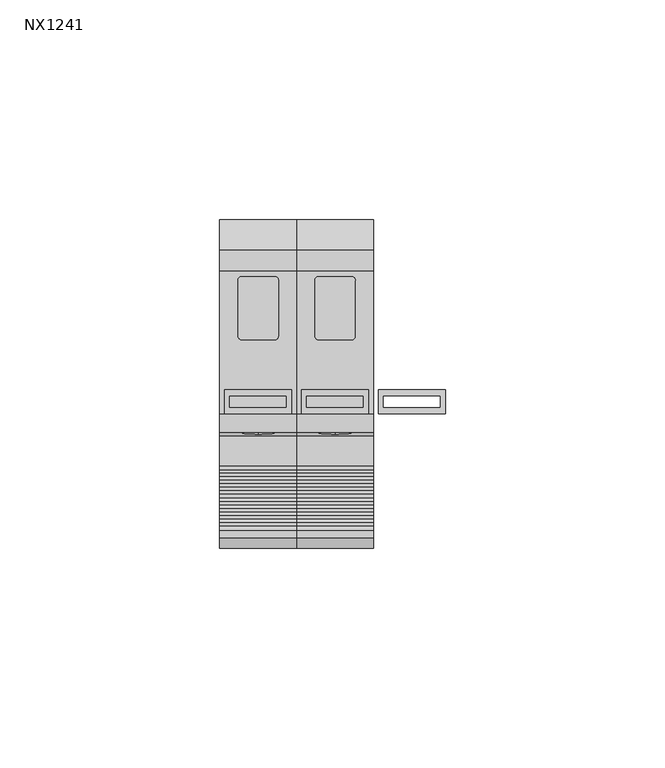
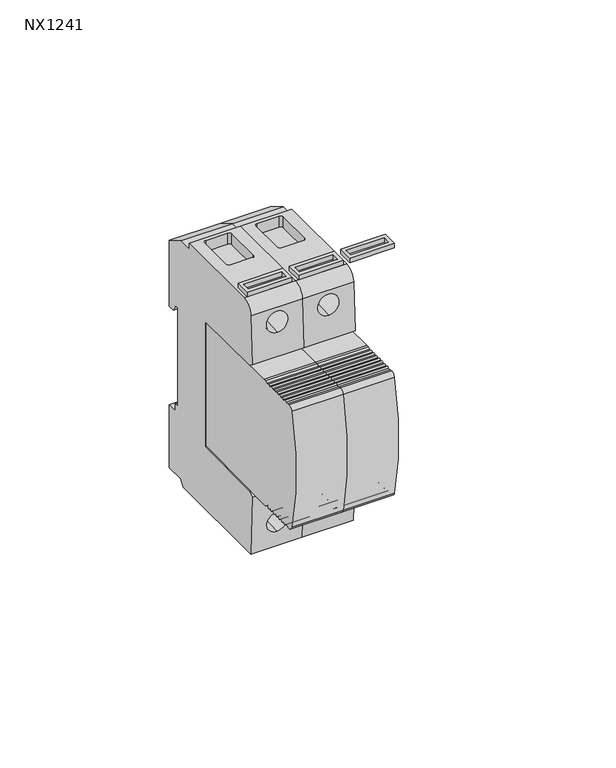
"""IFC4 building model written with IfcOpenShell, lengths in millimetres: proxy geometry, КНС_УЗИП_классI+II_DKC : NX1241."""

from ifc_helpers import new_model, si_unit, point, frame, frame_2d, origin, place, context, project, spatial, polyline, circle_curve, ellipse_curve, trimmed, segment, composite_curve, outline, extrude, source, transform, mapped, element, save
from ifc_brep_helpers import plane_surface, cylinder_surface, revolved_surface, advanced_brep


def nx1241_89681e73(model_context):
    return source(origin(), model_context, "Body", "SolidModel", [
        extrude(outline(polyline([(1.1422597, -33.6922597), (16.3577403, -33.6922597), (16.3577403, -39.0669933), (1.1422597, -39.0669933), (1.1422597, -33.6922597)]), holes=[polyline([(15.147402, -35.102599), (2.251655, -35.102599), (2.2596285, -37.6473987), (15.1473955, -37.6473987), (15.147402, -35.102599)])]), frame((0.0, 0.0, 44.688194), z_axis=(0.0, 0.0, 1.0), x_axis=(1.0, 0.0, 0.0)), (0.0, 0.0, 1.0), 1.65),
        advanced_brep(
        [(17.5, 1.2, 17.438194), (17.5, 2.7207259, 14.938194), (17.5, 5.0, 14.938194), (17.5, 5.0, 38.7044771), (17.5, -1.7972569, 42.6288752), (17.5, -6.7, 42.5860896), (17.5, -6.6806922, 44.688194), (17.5, -39.1559657, 44.688194), (17.5, -43.2612234, 40.8404952), (17.5, -44.1501875, 23.5687496), (17.5, -42.5975423, 22.4685618), (17.5, -16.1999972, 22.2381939), (17.5, -16.1999972, -22.861806), (17.5, -42.5975423, -23.0921739), (17.5, -44.149783, -24.192075), (17.5, -43.0654073, -45.2646007), (17.5, -3.2721098, -45.2646007), (17.5, -1.6937526, -43.2533905), (17.5, 5.0, -43.311806), (17.5, 5.0, -20.561806), (17.5, 1.5, -20.561806), (17.5, 1.5, -18.061806), (17.5, 0.0, -18.061806), (17.5, 0.0, 17.438194), (0.0, 1.2, 17.438194), (0.0, 0.0, 17.438194), (0.0, 0.0, -18.061806), (0.0, 1.5, -18.061806), (0.0, 1.5, -20.561806), (0.0, 5.0, -20.561806), (0.0, 5.0, -43.311806), (0.0, -1.6937526, -43.2533905), (0.0, -3.2721098, -45.2646007), (0.0, -43.0654073, -45.2646007), (0.0, -44.149783, -24.192075), (0.0, -42.5975423, -23.0921739), (0.0, -16.1999972, -22.861806), (0.0, -16.1999972, 22.2381939), (0.0, -42.5975423, 22.4685618), (0.0, -44.1501875, 23.5687496), (0.0, -43.2612234, 40.8404952), (0.0, -39.1559657, 44.688194), (0.0, -6.6806922, 44.688194), (0.0, -6.7, 42.5860896), (0.0, -1.7972569, 42.6288752), (0.0, 5.0, 38.7044771), (0.0, 5.0, 14.938194), (0.0, 2.7207259, 14.938194), (2.251655, -35.102599, 44.688194), (15.147402, -35.102599, 44.688194), (15.1473955, -37.6473987, 44.688194), (2.2596285, -37.6473987, 44.688194), (4.1464467, -8.7059631, 44.688194), (4.9559631, -7.8964466, 44.688194), (12.543988, -7.8964466, 44.688194), (13.3535534, -8.9059631, 44.688194), (13.3535534, -21.4940369, 44.688194), (12.5440369, -22.3035534, 44.688194), (4.9559631, -22.3035534, 44.688194), (4.1464467, -21.2943613, 44.688194), (8.75, -43.7122623, 32.0772292), (8.75, -43.3399564, 39.3107864), (8.75, -43.3425137, -39.8796286), (8.75, -43.7053358, -32.8289577), (15.147402, -35.102599, 40.688194), (2.251655, -35.102599, 40.688194), (2.2596285, -37.6473987, 40.688194), (15.1473955, -37.6473987, 40.688194), (8.75, -32.0563306, 32.6770343), (8.75, -32.241464, 36.2747068), (8.75, -32.4265974, 39.8723793), (8.75, -28.3623348, -39.1087603), (8.75, -28.5437458, -35.5834249), (8.75, -28.7251568, -32.0580894), (4.9559631, -7.8964466, 40.688194), (4.1464467, -8.7059631, 40.688194), (4.1464467, -21.2943613, 40.688194), (4.9559631, -22.3035534, 40.688194), (12.5440369, -22.3035534, 40.688194), (13.3535534, -21.4940369, 40.688194), (13.3535534, -8.9059631, 40.688194), (12.543988, -7.8964466, 40.688194)],
        [
            (0, 1),
            (1, 2),
            (2, 3),
            (3, 4),
            (4, 5),
            (5, 6),
            (6, 7),
            (7, 8, circle_curve(frame((17.5, -39.1559657, 40.574316), z_axis=(1.0, 0.0, 0.0), x_axis=(0.0, -1.0, 0.0)), 4.113878)),
            (8, 9),
            (9, 10),
            (10, 11),
            (11, 12),
            (12, 13),
            (13, 14),
            (14, 15),
            (15, 16),
            (16, 17),
            (17, 18),
            (18, 19),
            (19, 20),
            (20, 21),
            (21, 22),
            (22, 23),
            (23, 0),
            (24, 25),
            (25, 26),
            (26, 27),
            (27, 28),
            (28, 29),
            (29, 30),
            (30, 31),
            (31, 32),
            (32, 33),
            (33, 34),
            (34, 35),
            (35, 36),
            (36, 37),
            (37, 38),
            (38, 39),
            (39, 40),
            (40, 41, circle_curve(frame((0.0, -39.1559657, 40.574316), z_axis=(-1.0, 0.0, 0.0), x_axis=(0.0, -1.0, 0.0)), 4.113878)),
            (41, 42),
            (42, 43),
            (43, 44),
            (44, 45),
            (45, 46),
            (46, 47),
            (47, 24),
            (0, 24),
            (47, 1),
            (46, 2),
            (45, 3),
            (44, 4),
            (43, 5),
            (42, 6),
            (41, 7),
            (48, 49),
            (49, 50),
            (50, 51),
            (51, 48),
            (52, 53, circle_curve(frame((4.9559631, -8.7059631, 44.688194), z_axis=(0.0, 0.0, -1.0), x_axis=(1.0, 0.0, 0.0)), 0.8095165)),
            (53, 54),
            (54, 55, circle_curve(frame((12.543988, -8.7258138, 44.688194), z_axis=(0.0, 0.0, -1.0), x_axis=(1.0, 0.0, 0.0)), 0.8293672)),
            (55, 56),
            (56, 57, circle_curve(frame((12.5440369, -21.4940369, 44.688194), z_axis=(0.0, 0.0, -1.0), x_axis=(1.0, 0.0, 0.0)), 0.8095165)),
            (57, 58),
            (58, 59, circle_curve(frame((5.1802649, -21.2943613, 44.688194), z_axis=(0.0, 0.0, -1.0), x_axis=(1.0, 0.0, 0.0)), 1.0338181)),
            (59, 52),
            (40, 8),
            (39, 9),
            (60, 61, ellipse_curve(frame((8.75, -43.5261093, 35.6940078), z_axis=(0.0, 0.9986780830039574, -0.05140123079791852), x_axis=(0.0, -0.0514012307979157, -0.9986780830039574)), 3.621566, 3.6024328)),
            (61, 60, ellipse_curve(frame((8.75, -43.5261093, 35.6940078), z_axis=(0.0, 0.9986780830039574, -0.05140123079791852), x_axis=(0.0, -0.0514012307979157, -0.9986780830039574)), 3.621566, 3.6024328)),
            (38, 10),
            (37, 11),
            (36, 12),
            (35, 13),
            (34, 14),
            (33, 15),
            (62, 63, circle_curve(frame((8.75, -43.5239247, -36.3542932), z_axis=(0.0, 0.9986785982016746, 0.051391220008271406), x_axis=(0.0, -0.05139122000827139, 0.9986785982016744)), 3.53)),
            (63, 62, circle_curve(frame((8.75, -43.5239247, -36.3542932), z_axis=(0.0, 0.9986785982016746, 0.051391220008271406), x_axis=(0.0, -0.05139122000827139, 0.9986785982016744)), 3.53)),
            (32, 16),
            (31, 17),
            (30, 18),
            (29, 19),
            (28, 20),
            (27, 21),
            (26, 22),
            (25, 23),
            (64, 65),
            (65, 66),
            (66, 67),
            (67, 64),
            (64, 49),
            (48, 65),
            (51, 66),
            (50, 67),
            (68, 69),
            (69, 70),
            (70, 68, circle_curve(frame((8.75, -32.241464, 36.2747068), z_axis=(0.0, -0.9986785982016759, -0.051391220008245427), x_axis=(0.0, -0.05139122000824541, 0.9986785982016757)), 3.6024328)),
            (68, 70, circle_curve(frame((8.75, -32.241464, 36.2747068), z_axis=(0.0, -0.9986785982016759, -0.051391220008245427), x_axis=(0.0, -0.05139122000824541, 0.9986785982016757)), 3.6024328)),
            (70, 61),
            (60, 68),
            (71, 72),
            (72, 73),
            (73, 71, circle_curve(frame((8.75, -28.5437458, -35.5834249), z_axis=(0.0, -0.9986785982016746, -0.051391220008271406), x_axis=(0.0, -0.05139122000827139, 0.9986785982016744)), 3.53)),
            (71, 73, circle_curve(frame((8.75, -28.5437458, -35.5834249), z_axis=(0.0, -0.9986785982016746, -0.051391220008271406), x_axis=(0.0, -0.05139122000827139, 0.9986785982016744)), 3.53)),
            (73, 63),
            (62, 71),
            (74, 75, circle_curve(frame((4.9559631, -8.7059631, 40.688194), z_axis=(0.0, 0.0, 1.0), x_axis=(1.0, 0.0, 0.0)), 0.8095165)),
            (75, 76),
            (76, 77, circle_curve(frame((5.1802649, -21.2943613, 40.688194), z_axis=(0.0, 0.0, 1.0), x_axis=(1.0, 0.0, 0.0)), 1.0338181)),
            (77, 78),
            (78, 79, circle_curve(frame((12.5440369, -21.4940369, 40.688194), z_axis=(0.0, 0.0, 1.0), x_axis=(1.0, 0.0, 0.0)), 0.8095165)),
            (79, 80),
            (80, 81, circle_curve(frame((12.543988, -8.7258138, 40.688194), z_axis=(0.0, 0.0, 1.0), x_axis=(1.0, 0.0, 0.0)), 0.8293672)),
            (81, 74),
            (74, 53),
            (52, 75),
            (59, 76),
            (58, 77),
            (57, 78),
            (56, 79),
            (55, 80),
            (54, 81),
        ],
        [
            plane_surface(frame((17.5, 1.2, 17.438194), z_axis=(1.0, 0.0, 0.0), x_axis=(0.0, 0.5196942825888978, -0.8543523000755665))),
            plane_surface(frame((0.0, 1.2, 17.438194), z_axis=(-1.0, 0.0, 0.0), x_axis=(0.0, -0.5196942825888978, 0.8543523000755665))),
            plane_surface(frame((17.5, 1.2, 17.438194), z_axis=(0.0, -0.8543523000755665, -0.5196942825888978), x_axis=(-1.0, 0.0, 0.0))),
            plane_surface(frame((17.5, 2.7207259, 14.938194), z_axis=(0.0, 0.0, -1.0), x_axis=(-1.0, 0.0, 0.0))),
            plane_surface(frame((17.5, 5.0, 14.938194), z_axis=(0.0, 1.0, 0.0), x_axis=(-1.0, 0.0, 0.0))),
            plane_surface(frame((17.5, 5.0, 38.7044771), z_axis=(0.0, 0.49999999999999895, 0.8660254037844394), x_axis=(-1.0, 0.0, 0.0))),
            plane_surface(frame((17.5, -1.7972569, 42.6288752), z_axis=(0.0, -0.008726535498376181, 0.9999619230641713), x_axis=(-1.0, 0.0, 0.0))),
            plane_surface(frame((17.5, -6.7, 42.5860896), z_axis=(0.0, 0.9999578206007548, -0.009184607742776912), x_axis=(-1.0, 0.0, 0.0))),
            plane_surface(frame((17.5, -6.6806922, 44.688194), z_axis=(0.0, 0.0, 1.0), x_axis=(-1.0, 0.0, 0.0))),
            cylinder_surface(frame((0.0, -39.1559657, 40.574316), z_axis=(1.0, 0.0, 0.0), x_axis=(0.0, -1.0, 0.0)), 4.113878),
            plane_surface(frame((17.5, -43.2612234, 40.8404952), z_axis=(0.0, -0.9986780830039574, 0.05140123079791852), x_axis=(-1.0, 0.0, 0.0))),
            plane_surface(frame((17.5, -44.1501875, 23.5687496), z_axis=(0.0, -0.5781564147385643, -0.8159259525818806), x_axis=(-1.0, 0.0, 0.0))),
            plane_surface(frame((17.5, -42.5975423, 22.4685618), z_axis=(0.0, -0.00872653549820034, -0.9999619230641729), x_axis=(-1.0, 0.0, 0.0))),
            plane_surface(frame((17.5, -16.1999972, 22.2381939), z_axis=(0.0, -1.0, 0.0), x_axis=(-1.0, 0.0, 0.0))),
            plane_surface(frame((17.5, -16.1999972, -22.861806), z_axis=(0.0, -0.008726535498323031, 0.9999619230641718), x_axis=(-1.0, 0.0, 0.0))),
            plane_surface(frame((17.5, -42.5975423, -23.0921739), z_axis=(0.0, -0.5781564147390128, 0.8159259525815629), x_axis=(-1.0, 0.0, 0.0))),
            plane_surface(frame((17.5, -44.149783, -24.192075), z_axis=(0.0, -0.9986785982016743, -0.05139122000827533), x_axis=(-1.0, 0.0, 0.0))),
            plane_surface(frame((17.5, -43.0654073, -45.2646007), z_axis=(0.0, 0.0, -1.0), x_axis=(-1.0, 0.0, 0.0))),
            plane_surface(frame((17.5, -3.2721098, -45.2646007), z_axis=(0.0, 0.7866753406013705, -0.6173669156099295), x_axis=(-1.0, 0.0, 0.0))),
            plane_surface(frame((17.5, -1.6937526, -43.2533905), z_axis=(0.0, -0.008726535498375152, -0.9999619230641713), x_axis=(-1.0, 0.0, 0.0))),
            plane_surface(frame((17.5, 5.0, -43.311806), z_axis=(0.0, 1.0, 0.0), x_axis=(-1.0, 0.0, 0.0))),
            plane_surface(frame((17.5, 5.0, -20.561806), z_axis=(0.0, 0.0, 1.0), x_axis=(-1.0, 0.0, 0.0))),
            plane_surface(frame((17.5, 1.5, -20.561806), z_axis=(0.0, 1.0, 0.0), x_axis=(-1.0, 0.0, 0.0))),
            plane_surface(frame((17.5, 1.5, -18.061806), z_axis=(0.0, 0.0, 1.0), x_axis=(-1.0, 0.0, 0.0))),
            plane_surface(frame((17.5, 0.0, -18.061806), z_axis=(0.0, 1.0, 0.0), x_axis=(-1.0, 0.0, 0.0))),
            plane_surface(frame((17.5, 0.0, 17.438194), z_axis=(0.0, 0.0, -1.0), x_axis=(-1.0, 0.0, 0.0))),
            plane_surface(frame((2.5525837, -35.102599, 40.688194), z_axis=(0.0, 0.0, 1.0), x_axis=(1.0, 0.0, 0.0))),
            plane_surface(frame((15.147402, -35.102599, 51.9501742), z_axis=(0.0, -1.0, 0.0), x_axis=(0.0, 0.0, -1.0))),
            plane_surface(frame((2.251655, -35.102599, 51.9501742), z_axis=(0.9999950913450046, 0.003133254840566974, 0.0), x_axis=(0.0, 0.0, -1.0))),
            plane_surface(frame((2.2596285, -37.6473987, 51.9501742), z_axis=(0.0, 1.0, 0.0), x_axis=(0.0, 0.0, -1.0))),
            plane_surface(frame((15.1473955, -37.6473987, 51.9501742), z_axis=(-0.9999999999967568, 2.546850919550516e-06, 0.0), x_axis=(0.0, 0.0, -1.0))),
            plane_surface(frame((8.75, -32.241464, 36.2747068), z_axis=(0.0, -0.9986785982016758, -0.05139122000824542), x_axis=(0.0, -0.05139122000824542, 0.9986785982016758))),
            revolved_surface(polyline([(8.75, -44.082529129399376, 39.27257420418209), (8.75, -32.42659740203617, 39.872379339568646)]), (8.75, -32.241464, 36.2747068), (0.0, -0.9986785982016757, -0.05139122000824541)),
            plane_surface(frame((8.75, -28.5437458, -35.5834249), z_axis=(0.0, -0.9986785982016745, -0.0513912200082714), x_axis=(0.0, -0.0513912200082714, 0.9986785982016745))),
            revolved_surface(polyline([(8.75, -43.70533579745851, -32.828957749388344), (8.75, -28.725156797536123, -32.058089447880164)]), (8.75, -28.5437458, -35.5834249), (0.0, -0.9986785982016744, -0.05139122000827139)),
            plane_surface(frame((5.7654796, -8.7059631, 40.688194), z_axis=(0.0, 0.0, 1.0), x_axis=(0.0, -1.0, 0.0))),
            revolved_surface(polyline([(5.7654796, -8.7059631, 44.688194), (5.7654796, -8.7059631, 40.688194)]), (4.9559631, -8.7059631, 40.688194), (0.0, 0.0, 1.0)),
            plane_surface(frame((4.1464467, -8.7059631, 44.688194), z_axis=(1.0, 0.0, 0.0), x_axis=(0.0, 0.0, -1.0))),
            revolved_surface(polyline([(6.2140830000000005, -21.2943613, 44.688194), (6.2140830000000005, -21.2943613, 40.688194)]), (5.1802649, -21.2943613, 40.688194), (0.0, 0.0, 1.0)),
            plane_surface(frame((4.9559631, -22.3035534, 44.688194), z_axis=(0.0, 1.0, 0.0), x_axis=(0.0, 0.0, -1.0))),
            revolved_surface(polyline([(13.3535534, -21.4940369, 44.688194), (13.3535534, -21.4940369, 40.688194)]), (12.5440369, -21.4940369, 40.688194), (0.0, 0.0, 1.0)),
            plane_surface(frame((13.3535534, -21.4940369, 44.688194), z_axis=(-1.0, 0.0, 0.0), x_axis=(0.0, 0.0, -1.0))),
            revolved_surface(polyline([(13.3733552, -8.7258138, 44.688194), (13.3733552, -8.7258138, 40.688194)]), (12.543988, -8.7258138, 40.688194), (0.0, 0.0, 1.0)),
            plane_surface(frame((12.543988, -7.8964466, 44.688194), z_axis=(1.8937241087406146e-10, -1.0, 0.0), x_axis=(0.0, 0.0, -1.0))),
        ],
        [
            (0, [[1, 2, 3, 4, 5, 6, 7, 8, 9, 10, 11, 12, 13, 14, 15, 16, 17, 18, 19, 20, 21, 22, 23, 24]]),
            (1, [[25, 26, 27, 28, 29, 30, 31, 32, 33, 34, 35, 36, 37, 38, 39, 40, 41, 42, 43, 44, 45, 46, 47, 48]]),
            (2, [[-1, 49, -48, 50]]),
            (3, [[-2, -50, -47, 51]]),
            (4, [[-3, -51, -46, 52]]),
            (5, [[-4, -52, -45, 53]]),
            (6, [[-5, -53, -44, 54]]),
            (7, [[-6, -54, -43, 55]]),
            (8, [[-7, -55, -42, 56], [57, 58, 59, 60], [61, 62, 63, 64, 65, 66, 67, 68]]),
            (9, [[-8, -56, -41, 69]]),
            (10, [[-9, -69, -40, 70], [71, 72]]),
            (11, [[-10, -70, -39, 73]]),
            (12, [[-11, -73, -38, 74]]),
            (13, [[-12, -74, -37, 75]]),
            (14, [[-13, -75, -36, 76]]),
            (15, [[-14, -76, -35, 77]]),
            (16, [[-15, -77, -34, 78], [79, 80]]),
            (17, [[-16, -78, -33, 81]]),
            (18, [[-17, -81, -32, 82]]),
            (19, [[-18, -82, -31, 83]]),
            (20, [[-19, -83, -30, 84]]),
            (21, [[-20, -84, -29, 85]]),
            (22, [[-21, -85, -28, 86]]),
            (23, [[-22, -86, -27, 87]]),
            (24, [[-23, -87, -26, 88]]),
            (25, [[-24, -88, -25, -49]]),
            (26, [[89, 90, 91, 92]]),
            (27, [[-89, 93, -57, 94]]),
            (28, [[-90, -94, -60, 95]]),
            (29, [[-91, -95, -59, 96]]),
            (30, [[-92, -96, -58, -93]]),
            (31, [[97, 98, 99]]),
            (31, [[-97, 100, -98]]),
            (32, [[-99, 101, -71, 102]]),
            (32, [[-100, -102, -72, -101]]),
            (33, [[103, 104, 105]]),
            (33, [[-103, 106, -104]]),
            (34, [[-105, 107, -79, 108]]),
            (34, [[-106, -108, -80, -107]]),
            (35, [[109, 110, 111, 112, 113, 114, 115, 116]]),
            (36, [[-109, 117, -61, 118]]),
            (37, [[-110, -118, -68, 119]]),
            (38, [[-111, -119, -67, 120]]),
            (39, [[-112, -120, -66, 121]]),
            (40, [[-113, -121, -65, 122]]),
            (41, [[-114, -122, -64, 123]]),
            (42, [[-115, -123, -63, 124]]),
            (43, [[-116, -124, -62, -117]]),
        ],
    ),
        extrude(outline(composite_curve([segment(polyline([(-20.9549972, 22.238194), (-16.1999972, 22.238194), (-16.1999972, -22.238194), (-20.9549972, -22.238194), (-50.9549972, -22.5), (-51.8409232, -22.5)]), True, "CONTINUOUS"), segment(trimmed(circle_curve(frame_2d((-51.8159676, -21.704458)), 0.7959333), [point((-51.8409232, -22.5))], [point((-52.5549972, -22.0))], False, "CARTESIAN"), True, "CONTINUOUS"), segment(polyline([(-52.5549972, -22.0), (-53.3549972, -22.0)]), True, "CONTINUOUS"), segment(trimmed(circle_curve(frame_2d((-53.7549972, -22.0)), 0.4), [point((-53.3549972, -22.0))], [point((-54.1549972, -22.0))], False, "CARTESIAN"), True, "CONTINUOUS"), segment(polyline([(-54.1549972, -22.0), (-54.9549972, -22.0)]), True, "CONTINUOUS"), segment(trimmed(circle_curve(frame_2d((-55.3549972, -22.0)), 0.4), [point((-54.9549972, -22.0))], [point((-55.7549972, -22.0))], False, "CARTESIAN"), True, "CONTINUOUS"), segment(polyline([(-55.7549972, -22.0), (-56.5549972, -22.0)]), True, "CONTINUOUS"), segment(trimmed(circle_curve(frame_2d((-56.9549972, -22.0)), 0.4), [point((-56.5549972, -22.0))], [point((-57.3549972, -22.0))], False, "CARTESIAN"), True, "CONTINUOUS"), segment(polyline([(-57.3549972, -22.0), (-58.1549972, -22.0)]), True, "CONTINUOUS"), segment(trimmed(circle_curve(frame_2d((-58.5549972, -22.0)), 0.4), [point((-58.1549972, -22.0))], [point((-58.9549972, -22.0))], False, "CARTESIAN"), True, "CONTINUOUS"), segment(polyline([(-58.9549972, -22.0), (-59.7549972, -22.0)]), True, "CONTINUOUS"), segment(trimmed(circle_curve(frame_2d((-60.1549972, -22.0)), 0.4), [point((-59.7549972, -22.0))], [point((-60.5549972, -22.0))], False, "CARTESIAN"), True, "CONTINUOUS"), segment(polyline([(-60.5549972, -22.0), (-61.3549972, -22.0)]), True, "CONTINUOUS"), segment(trimmed(circle_curve(frame_2d((-61.7549972, -22.0)), 0.4), [point((-61.3549972, -22.0))], [point((-62.1549972, -22.0))], False, "CARTESIAN"), True, "CONTINUOUS"), segment(polyline([(-62.1549972, -22.0), (-62.9549972, -22.0)]), True, "CONTINUOUS"), segment(trimmed(circle_curve(frame_2d((-63.3549972, -22.0)), 0.4), [point((-62.9549972, -22.0))], [point((-63.7549972, -22.0))], False, "CARTESIAN"), True, "CONTINUOUS"), segment(polyline([(-63.7549972, -22.0), (-64.5549972, -22.0)]), True, "CONTINUOUS"), segment(trimmed(circle_curve(frame_2d((-65.6169646, -20.2703757)), 2.0296243), [point((-64.5549972, -22.0))], [point((-65.6169646, -22.3))], False, "CARTESIAN"), True, "CONTINUOUS"), segment(trimmed(circle_curve(frame_2d((-65.6408544, -20.5391615)), 1.7610005), [point((-65.6169646, -22.3))], [point((-67.3551679, -20.9419667))], False, "CARTESIAN"), True, "CONTINUOUS"), segment(trimmed(circle_curve(frame_2d((15.9165985, 0.0)), 85.8647369), [point((-67.3551679, -20.9419667))], [point((-67.3551679, 20.9419667))], False, "CARTESIAN"), True, "CONTINUOUS"), segment(trimmed(circle_curve(frame_2d((-65.6408544, 20.5391615)), 1.7610005), [point((-67.3551679, 20.9419667))], [point((-65.6169646, 22.3))], False, "CARTESIAN"), True, "CONTINUOUS"), segment(trimmed(circle_curve(frame_2d((-65.6169646, 20.2703757)), 2.0296243), [point((-65.6169646, 22.3))], [point((-64.5549972, 22.0))], False, "CARTESIAN"), True, "CONTINUOUS"), segment(polyline([(-64.5549972, 22.0), (-63.7549972, 22.0)]), True, "CONTINUOUS"), segment(trimmed(circle_curve(frame_2d((-63.3549972, 22.0)), 0.4), [point((-63.7549972, 22.0))], [point((-62.9549972, 22.0))], False, "CARTESIAN"), True, "CONTINUOUS"), segment(polyline([(-62.9549972, 22.0), (-62.1549972, 22.0)]), True, "CONTINUOUS"), segment(trimmed(circle_curve(frame_2d((-61.7549972, 22.0)), 0.4), [point((-62.1549972, 22.0))], [point((-61.3549972, 22.0))], False, "CARTESIAN"), True, "CONTINUOUS"), segment(polyline([(-61.3549972, 22.0), (-60.5549972, 22.0)]), True, "CONTINUOUS"), segment(trimmed(circle_curve(frame_2d((-60.1549972, 22.0)), 0.4), [point((-60.5549972, 22.0))], [point((-59.7549972, 22.0))], False, "CARTESIAN"), True, "CONTINUOUS"), segment(polyline([(-59.7549972, 22.0), (-58.9549972, 22.0)]), True, "CONTINUOUS"), segment(trimmed(circle_curve(frame_2d((-58.5549972, 22.0)), 0.4), [point((-58.9549972, 22.0))], [point((-58.1549972, 22.0))], False, "CARTESIAN"), True, "CONTINUOUS"), segment(polyline([(-58.1549972, 22.0), (-57.3549972, 22.0)]), True, "CONTINUOUS"), segment(trimmed(circle_curve(frame_2d((-56.9549972, 22.0)), 0.4), [point((-57.3549972, 22.0))], [point((-56.5549972, 22.0))], False, "CARTESIAN"), True, "CONTINUOUS"), segment(polyline([(-56.5549972, 22.0), (-55.7549972, 22.0)]), True, "CONTINUOUS"), segment(trimmed(circle_curve(frame_2d((-55.3549972, 22.0)), 0.4), [point((-55.7549972, 22.0))], [point((-54.9549972, 22.0))], False, "CARTESIAN"), True, "CONTINUOUS"), segment(polyline([(-54.9549972, 22.0), (-54.1549972, 22.0)]), True, "CONTINUOUS"), segment(trimmed(circle_curve(frame_2d((-53.7549972, 22.0)), 0.4), [point((-54.1549972, 22.0))], [point((-53.3549972, 22.0))], False, "CARTESIAN"), True, "CONTINUOUS"), segment(polyline([(-53.3549972, 22.0), (-52.5549972, 22.0)]), True, "CONTINUOUS"), segment(trimmed(circle_curve(frame_2d((-51.8159676, 21.704458)), 0.7959333), [point((-52.5549972, 22.0))], [point((-51.8409232, 22.5))], False, "CARTESIAN"), True, "CONTINUOUS"), segment(polyline([(-51.8409232, 22.5), (-50.9549972, 22.5), (-20.9549972, 22.238194)]), True, "CONTINUOUS")], self_intersect=False)), frame((0.0, 0.0, 0.0), z_axis=(1.0, 0.0, 0.0), x_axis=(0.0, 1.0, 0.0)), (0.0, 0.0, 1.0), 17.5),
        extrude(outline(polyline([(18.6422597, -33.6922597), (33.8577403, -33.6922597), (33.8577403, -39.0669933), (18.6422597, -39.0669933), (18.6422597, -33.6922597)]), holes=[polyline([(32.647402, -35.102599), (19.751655, -35.102599), (19.7596285, -37.6473987), (32.6473955, -37.6473987), (32.647402, -35.102599)])]), frame((0.0, 0.0, 44.688194), z_axis=(0.0, 0.0, 1.0), x_axis=(1.0, 0.0, 0.0)), (0.0, 0.0, 1.0), 1.65),
        advanced_brep(
        [(35.0, 1.2, 17.438194), (35.0, 2.7207259, 14.938194), (35.0, 5.0, 14.938194), (35.0, 5.0, 38.7044771), (35.0, -1.7972569, 42.6288752), (35.0, -6.7, 42.5860896), (35.0, -6.6806922, 44.688194), (35.0, -39.1559657, 44.688194), (35.0, -43.2612234, 40.8404952), (35.0, -44.1501875, 23.5687496), (35.0, -42.5975423, 22.4685618), (35.0, -16.1999972, 22.2381939), (35.0, -16.1999972, -22.861806), (35.0, -42.5975423, -23.0921739), (35.0, -44.149783, -24.192075), (35.0, -43.0654073, -45.2646007), (35.0, -3.2721098, -45.2646007), (35.0, -1.6937526, -43.2533905), (35.0, 5.0, -43.311806), (35.0, 5.0, -20.561806), (35.0, 1.5, -20.561806), (35.0, 1.5, -18.061806), (35.0, 0.0, -18.061806), (35.0, 0.0, 17.438194), (17.5, 1.2, 17.438194), (17.5, 0.0, 17.438194), (17.5, 0.0, -18.061806), (17.5, 1.5, -18.061806), (17.5, 1.5, -20.561806), (17.5, 5.0, -20.561806), (17.5, 5.0, -43.311806), (17.5, -1.6937526, -43.2533905), (17.5, -3.2721098, -45.2646007), (17.5, -43.0654073, -45.2646007), (17.5, -44.149783, -24.192075), (17.5, -42.5975423, -23.0921739), (17.5, -16.1999972, -22.861806), (17.5, -16.1999972, 22.2381939), (17.5, -42.5975423, 22.4685618), (17.5, -44.1501875, 23.5687496), (17.5, -43.2612234, 40.8404952), (17.5, -39.1559657, 44.688194), (17.5, -6.6806922, 44.688194), (17.5, -6.7, 42.5860896), (17.5, -1.7972569, 42.6288752), (17.5, 5.0, 38.7044771), (17.5, 5.0, 14.938194), (17.5, 2.7207259, 14.938194), (19.751655, -35.102599, 44.688194), (32.647402, -35.102599, 44.688194), (32.6473955, -37.6473987, 44.688194), (19.7596285, -37.6473987, 44.688194), (21.6464467, -8.7059631, 44.688194), (22.4559631, -7.8964466, 44.688194), (30.043988, -7.8964466, 44.688194), (30.8535534, -8.9059631, 44.688194), (30.8535534, -21.4940369, 44.688194), (30.0440369, -22.3035534, 44.688194), (22.4559631, -22.3035534, 44.688194), (21.6464467, -21.2943613, 44.688194), (26.25, -43.7122623, 32.0772292), (26.25, -43.3399564, 39.3107864), (26.25, -43.3425137, -39.8796286), (26.25, -43.7053358, -32.8289577), (32.647402, -35.102599, 40.688194), (19.751655, -35.102599, 40.688194), (19.7596285, -37.6473987, 40.688194), (32.6473955, -37.6473987, 40.688194), (26.25, -32.0563306, 32.6770343), (26.25, -32.241464, 36.2747068), (26.25, -32.4265974, 39.8723793), (26.25, -28.3623348, -39.1087603), (26.25, -28.5437458, -35.5834249), (26.25, -28.7251568, -32.0580894), (22.4559631, -7.8964466, 40.688194), (21.6464467, -8.7059631, 40.688194), (21.6464467, -21.2943613, 40.688194), (22.4559631, -22.3035534, 40.688194), (30.0440369, -22.3035534, 40.688194), (30.8535534, -21.4940369, 40.688194), (30.8535534, -8.9059631, 40.688194), (30.043988, -7.8964466, 40.688194)],
        [
            (0, 1),
            (1, 2),
            (2, 3),
            (3, 4),
            (4, 5),
            (5, 6),
            (6, 7),
            (7, 8, circle_curve(frame((35.0, -39.1559657, 40.574316), z_axis=(1.0, 0.0, 0.0), x_axis=(0.0, -1.0, 0.0)), 4.113878)),
            (8, 9),
            (9, 10),
            (10, 11),
            (11, 12),
            (12, 13),
            (13, 14),
            (14, 15),
            (15, 16),
            (16, 17),
            (17, 18),
            (18, 19),
            (19, 20),
            (20, 21),
            (21, 22),
            (22, 23),
            (23, 0),
            (24, 25),
            (25, 26),
            (26, 27),
            (27, 28),
            (28, 29),
            (29, 30),
            (30, 31),
            (31, 32),
            (32, 33),
            (33, 34),
            (34, 35),
            (35, 36),
            (36, 37),
            (37, 38),
            (38, 39),
            (39, 40),
            (40, 41, circle_curve(frame((17.5, -39.1559657, 40.574316), z_axis=(-1.0, 0.0, 0.0), x_axis=(0.0, -1.0, 0.0)), 4.113878)),
            (41, 42),
            (42, 43),
            (43, 44),
            (44, 45),
            (45, 46),
            (46, 47),
            (47, 24),
            (0, 24),
            (47, 1),
            (46, 2),
            (45, 3),
            (44, 4),
            (43, 5),
            (42, 6),
            (41, 7),
            (48, 49),
            (49, 50),
            (50, 51),
            (51, 48),
            (52, 53, circle_curve(frame((22.4559631, -8.7059631, 44.688194), z_axis=(0.0, 0.0, -1.0), x_axis=(1.0, 0.0, 0.0)), 0.8095165)),
            (53, 54),
            (54, 55, circle_curve(frame((30.043988, -8.7258138, 44.688194), z_axis=(0.0, 0.0, -1.0), x_axis=(1.0, 0.0, 0.0)), 0.8293672)),
            (55, 56),
            (56, 57, circle_curve(frame((30.0440369, -21.4940369, 44.688194), z_axis=(0.0, 0.0, -1.0), x_axis=(1.0, 0.0, 0.0)), 0.8095165)),
            (57, 58),
            (58, 59, circle_curve(frame((22.6802649, -21.2943613, 44.688194), z_axis=(0.0, 0.0, -1.0), x_axis=(1.0, 0.0, 0.0)), 1.0338181)),
            (59, 52),
            (40, 8),
            (39, 9),
            (60, 61, ellipse_curve(frame((26.25, -43.5261093, 35.6940078), z_axis=(0.0, 0.9986780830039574, -0.05140123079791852), x_axis=(0.0, -0.0514012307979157, -0.9986780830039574)), 3.621566, 3.6024328)),
            (61, 60, ellipse_curve(frame((26.25, -43.5261093, 35.6940078), z_axis=(0.0, 0.9986780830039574, -0.05140123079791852), x_axis=(0.0, -0.0514012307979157, -0.9986780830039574)), 3.621566, 3.6024328)),
            (38, 10),
            (37, 11),
            (36, 12),
            (35, 13),
            (34, 14),
            (33, 15),
            (62, 63, circle_curve(frame((26.25, -43.5239247, -36.3542932), z_axis=(0.0, 0.9986785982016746, 0.051391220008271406), x_axis=(0.0, -0.05139122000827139, 0.9986785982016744)), 3.53)),
            (63, 62, circle_curve(frame((26.25, -43.5239247, -36.3542932), z_axis=(0.0, 0.9986785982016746, 0.051391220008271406), x_axis=(0.0, -0.05139122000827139, 0.9986785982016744)), 3.53)),
            (32, 16),
            (31, 17),
            (30, 18),
            (29, 19),
            (28, 20),
            (27, 21),
            (26, 22),
            (25, 23),
            (64, 65),
            (65, 66),
            (66, 67),
            (67, 64),
            (64, 49),
            (48, 65),
            (51, 66),
            (50, 67),
            (68, 69),
            (69, 70),
            (70, 68, circle_curve(frame((26.25, -32.241464, 36.2747068), z_axis=(0.0, -0.9986785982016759, -0.051391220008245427), x_axis=(0.0, -0.05139122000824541, 0.9986785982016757)), 3.6024328)),
            (68, 70, circle_curve(frame((26.25, -32.241464, 36.2747068), z_axis=(0.0, -0.9986785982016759, -0.051391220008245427), x_axis=(0.0, -0.05139122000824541, 0.9986785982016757)), 3.6024328)),
            (70, 61),
            (60, 68),
            (71, 72),
            (72, 73),
            (73, 71, circle_curve(frame((26.25, -28.5437458, -35.5834249), z_axis=(0.0, -0.9986785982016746, -0.051391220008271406), x_axis=(0.0, -0.05139122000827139, 0.9986785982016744)), 3.53)),
            (71, 73, circle_curve(frame((26.25, -28.5437458, -35.5834249), z_axis=(0.0, -0.9986785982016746, -0.051391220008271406), x_axis=(0.0, -0.05139122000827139, 0.9986785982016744)), 3.53)),
            (73, 63),
            (62, 71),
            (74, 75, circle_curve(frame((22.4559631, -8.7059631, 40.688194), z_axis=(0.0, 0.0, 1.0), x_axis=(1.0, 0.0, 0.0)), 0.8095165)),
            (75, 76),
            (76, 77, circle_curve(frame((22.6802649, -21.2943613, 40.688194), z_axis=(0.0, 0.0, 1.0), x_axis=(1.0, 0.0, 0.0)), 1.0338181)),
            (77, 78),
            (78, 79, circle_curve(frame((30.0440369, -21.4940369, 40.688194), z_axis=(0.0, 0.0, 1.0), x_axis=(1.0, 0.0, 0.0)), 0.8095165)),
            (79, 80),
            (80, 81, circle_curve(frame((30.043988, -8.7258138, 40.688194), z_axis=(0.0, 0.0, 1.0), x_axis=(1.0, 0.0, 0.0)), 0.8293672)),
            (81, 74),
            (74, 53),
            (52, 75),
            (59, 76),
            (58, 77),
            (57, 78),
            (56, 79),
            (55, 80),
            (54, 81),
        ],
        [
            plane_surface(frame((35.0, 1.2, 17.438194), z_axis=(1.0, 0.0, 0.0), x_axis=(0.0, 0.5196942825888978, -0.8543523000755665))),
            plane_surface(frame((17.5, 1.2, 17.438194), z_axis=(-1.0, 0.0, 0.0), x_axis=(0.0, -0.5196942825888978, 0.8543523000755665))),
            plane_surface(frame((35.0, 1.2, 17.438194), z_axis=(0.0, -0.8543523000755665, -0.5196942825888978), x_axis=(-1.0, 0.0, 0.0))),
            plane_surface(frame((35.0, 2.7207259, 14.938194), z_axis=(0.0, 0.0, -1.0), x_axis=(-1.0, 0.0, 0.0))),
            plane_surface(frame((35.0, 5.0, 14.938194), z_axis=(0.0, 1.0, 0.0), x_axis=(-1.0, 0.0, 0.0))),
            plane_surface(frame((35.0, 5.0, 38.7044771), z_axis=(0.0, 0.49999999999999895, 0.8660254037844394), x_axis=(-1.0, 0.0, 0.0))),
            plane_surface(frame((35.0, -1.7972569, 42.6288752), z_axis=(0.0, -0.008726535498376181, 0.9999619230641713), x_axis=(-1.0, 0.0, 0.0))),
            plane_surface(frame((35.0, -6.7, 42.5860896), z_axis=(0.0, 0.9999578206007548, -0.009184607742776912), x_axis=(-1.0, 0.0, 0.0))),
            plane_surface(frame((35.0, -6.6806922, 44.688194), z_axis=(0.0, 0.0, 1.0), x_axis=(-1.0, 0.0, 0.0))),
            cylinder_surface(frame((17.5, -39.1559657, 40.574316), z_axis=(1.0, 0.0, 0.0), x_axis=(0.0, -1.0, 0.0)), 4.113878),
            plane_surface(frame((35.0, -43.2612234, 40.8404952), z_axis=(0.0, -0.9986780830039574, 0.05140123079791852), x_axis=(-1.0, 0.0, 0.0))),
            plane_surface(frame((35.0, -44.1501875, 23.5687496), z_axis=(0.0, -0.5781564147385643, -0.8159259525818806), x_axis=(-1.0, 0.0, 0.0))),
            plane_surface(frame((35.0, -42.5975423, 22.4685618), z_axis=(0.0, -0.00872653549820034, -0.9999619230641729), x_axis=(-1.0, 0.0, 0.0))),
            plane_surface(frame((35.0, -16.1999972, 22.2381939), z_axis=(0.0, -1.0, 0.0), x_axis=(-1.0, 0.0, 0.0))),
            plane_surface(frame((35.0, -16.1999972, -22.861806), z_axis=(0.0, -0.008726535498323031, 0.9999619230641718), x_axis=(-1.0, 0.0, 0.0))),
            plane_surface(frame((35.0, -42.5975423, -23.0921739), z_axis=(0.0, -0.5781564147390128, 0.8159259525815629), x_axis=(-1.0, 0.0, 0.0))),
            plane_surface(frame((35.0, -44.149783, -24.192075), z_axis=(0.0, -0.9986785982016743, -0.05139122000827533), x_axis=(-1.0, 0.0, 0.0))),
            plane_surface(frame((35.0, -43.0654073, -45.2646007), z_axis=(0.0, 0.0, -1.0), x_axis=(-1.0, 0.0, 0.0))),
            plane_surface(frame((35.0, -3.2721098, -45.2646007), z_axis=(0.0, 0.7866753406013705, -0.6173669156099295), x_axis=(-1.0, 0.0, 0.0))),
            plane_surface(frame((35.0, -1.6937526, -43.2533905), z_axis=(0.0, -0.008726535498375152, -0.9999619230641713), x_axis=(-1.0, 0.0, 0.0))),
            plane_surface(frame((35.0, 5.0, -43.311806), z_axis=(0.0, 1.0, 0.0), x_axis=(-1.0, 0.0, 0.0))),
            plane_surface(frame((35.0, 5.0, -20.561806), z_axis=(0.0, 0.0, 1.0), x_axis=(-1.0, 0.0, 0.0))),
            plane_surface(frame((35.0, 1.5, -20.561806), z_axis=(0.0, 1.0, 0.0), x_axis=(-1.0, 0.0, 0.0))),
            plane_surface(frame((35.0, 1.5, -18.061806), z_axis=(0.0, 0.0, 1.0), x_axis=(-1.0, 0.0, 0.0))),
            plane_surface(frame((35.0, 0.0, -18.061806), z_axis=(0.0, 1.0, 0.0), x_axis=(-1.0, 0.0, 0.0))),
            plane_surface(frame((35.0, 0.0, 17.438194), z_axis=(0.0, 0.0, -1.0), x_axis=(-1.0, 0.0, 0.0))),
            plane_surface(frame((20.0525837, -35.102599, 40.688194), z_axis=(0.0, 0.0, 1.0), x_axis=(1.0, 0.0, 0.0))),
            plane_surface(frame((32.647402, -35.102599, 51.9501742), z_axis=(0.0, -1.0, 0.0), x_axis=(0.0, 0.0, -1.0))),
            plane_surface(frame((19.751655, -35.102599, 51.9501742), z_axis=(0.9999950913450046, 0.003133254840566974, 0.0), x_axis=(0.0, 0.0, -1.0))),
            plane_surface(frame((19.7596285, -37.6473987, 51.9501742), z_axis=(0.0, 1.0, 0.0), x_axis=(0.0, 0.0, -1.0))),
            plane_surface(frame((32.6473955, -37.6473987, 51.9501742), z_axis=(-0.9999999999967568, 2.546850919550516e-06, 0.0), x_axis=(0.0, 0.0, -1.0))),
            plane_surface(frame((26.25, -32.241464, 36.2747068), z_axis=(0.0, -0.9986785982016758, -0.05139122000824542), x_axis=(0.0, -0.05139122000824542, 0.9986785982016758))),
            revolved_surface(polyline([(26.25, -44.082529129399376, 39.27257420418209), (26.25, -32.42659740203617, 39.872379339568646)]), (26.25, -32.241464, 36.2747068), (0.0, -0.9986785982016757, -0.05139122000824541)),
            plane_surface(frame((26.25, -28.5437458, -35.5834249), z_axis=(0.0, -0.9986785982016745, -0.0513912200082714), x_axis=(0.0, -0.0513912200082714, 0.9986785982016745))),
            revolved_surface(polyline([(26.25, -43.70533579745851, -32.828957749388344), (26.25, -28.725156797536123, -32.058089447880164)]), (26.25, -28.5437458, -35.5834249), (0.0, -0.9986785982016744, -0.05139122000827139)),
            plane_surface(frame((23.2654796, -8.7059631, 40.688194), z_axis=(0.0, 0.0, 1.0), x_axis=(0.0, -1.0, 0.0))),
            revolved_surface(polyline([(23.265479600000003, -8.7059631, 44.688194), (23.265479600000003, -8.7059631, 40.688194)]), (22.4559631, -8.7059631, 40.688194), (0.0, 0.0, 1.0)),
            plane_surface(frame((21.6464467, -8.7059631, 44.688194), z_axis=(1.0, 0.0, 0.0), x_axis=(0.0, 0.0, -1.0))),
            revolved_surface(polyline([(23.714083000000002, -21.2943613, 44.688194), (23.714083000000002, -21.2943613, 40.688194)]), (22.6802649, -21.2943613, 40.688194), (0.0, 0.0, 1.0)),
            plane_surface(frame((22.4559631, -22.3035534, 44.688194), z_axis=(0.0, 1.0, 0.0), x_axis=(0.0, 0.0, -1.0))),
            revolved_surface(polyline([(30.8535534, -21.4940369, 44.688194), (30.8535534, -21.4940369, 40.688194)]), (30.0440369, -21.4940369, 40.688194), (0.0, 0.0, 1.0)),
            plane_surface(frame((30.8535534, -21.4940369, 44.688194), z_axis=(-1.0, 0.0, 0.0), x_axis=(0.0, 0.0, -1.0))),
            revolved_surface(polyline([(30.8733552, -8.7258138, 44.688194), (30.8733552, -8.7258138, 40.688194)]), (30.043988, -8.7258138, 40.688194), (0.0, 0.0, 1.0)),
            plane_surface(frame((30.043988, -7.8964466, 44.688194), z_axis=(1.8937241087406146e-10, -1.0, 0.0), x_axis=(0.0, 0.0, -1.0))),
        ],
        [
            (0, [[1, 2, 3, 4, 5, 6, 7, 8, 9, 10, 11, 12, 13, 14, 15, 16, 17, 18, 19, 20, 21, 22, 23, 24]]),
            (1, [[25, 26, 27, 28, 29, 30, 31, 32, 33, 34, 35, 36, 37, 38, 39, 40, 41, 42, 43, 44, 45, 46, 47, 48]]),
            (2, [[-1, 49, -48, 50]]),
            (3, [[-2, -50, -47, 51]]),
            (4, [[-3, -51, -46, 52]]),
            (5, [[-4, -52, -45, 53]]),
            (6, [[-5, -53, -44, 54]]),
            (7, [[-6, -54, -43, 55]]),
            (8, [[-7, -55, -42, 56], [57, 58, 59, 60], [61, 62, 63, 64, 65, 66, 67, 68]]),
            (9, [[-8, -56, -41, 69]]),
            (10, [[-9, -69, -40, 70], [71, 72]]),
            (11, [[-10, -70, -39, 73]]),
            (12, [[-11, -73, -38, 74]]),
            (13, [[-12, -74, -37, 75]]),
            (14, [[-13, -75, -36, 76]]),
            (15, [[-14, -76, -35, 77]]),
            (16, [[-15, -77, -34, 78], [79, 80]]),
            (17, [[-16, -78, -33, 81]]),
            (18, [[-17, -81, -32, 82]]),
            (19, [[-18, -82, -31, 83]]),
            (20, [[-19, -83, -30, 84]]),
            (21, [[-20, -84, -29, 85]]),
            (22, [[-21, -85, -28, 86]]),
            (23, [[-22, -86, -27, 87]]),
            (24, [[-23, -87, -26, 88]]),
            (25, [[-24, -88, -25, -49]]),
            (26, [[89, 90, 91, 92]]),
            (27, [[-89, 93, -57, 94]]),
            (28, [[-90, -94, -60, 95]]),
            (29, [[-91, -95, -59, 96]]),
            (30, [[-92, -96, -58, -93]]),
            (31, [[97, 98, 99]]),
            (31, [[-97, 100, -98]]),
            (32, [[-99, 101, -71, 102]]),
            (32, [[-100, -102, -72, -101]]),
            (33, [[103, 104, 105]]),
            (33, [[-103, 106, -104]]),
            (34, [[-105, 107, -79, 108]]),
            (34, [[-106, -108, -80, -107]]),
            (35, [[109, 110, 111, 112, 113, 114, 115, 116]]),
            (36, [[-109, 117, -61, 118]]),
            (37, [[-110, -118, -68, 119]]),
            (38, [[-111, -119, -67, 120]]),
            (39, [[-112, -120, -66, 121]]),
            (40, [[-113, -121, -65, 122]]),
            (41, [[-114, -122, -64, 123]]),
            (42, [[-115, -123, -63, 124]]),
            (43, [[-116, -124, -62, -117]]),
        ],
    ),
        extrude(outline(composite_curve([segment(polyline([(-20.9549972, 22.238194), (-16.1999972, 22.238194), (-16.1999972, -22.238194), (-20.9549972, -22.238194), (-50.9549972, -22.5), (-51.8409232, -22.5)]), True, "CONTINUOUS"), segment(trimmed(circle_curve(frame_2d((-51.8159676, -21.704458)), 0.7959333), [point((-51.8409232, -22.5))], [point((-52.5549972, -22.0))], False, "CARTESIAN"), True, "CONTINUOUS"), segment(polyline([(-52.5549972, -22.0), (-53.3549972, -22.0)]), True, "CONTINUOUS"), segment(trimmed(circle_curve(frame_2d((-53.7549972, -22.0)), 0.4), [point((-53.3549972, -22.0))], [point((-54.1549972, -22.0))], False, "CARTESIAN"), True, "CONTINUOUS"), segment(polyline([(-54.1549972, -22.0), (-54.9549972, -22.0)]), True, "CONTINUOUS"), segment(trimmed(circle_curve(frame_2d((-55.3549972, -22.0)), 0.4), [point((-54.9549972, -22.0))], [point((-55.7549972, -22.0))], False, "CARTESIAN"), True, "CONTINUOUS"), segment(polyline([(-55.7549972, -22.0), (-56.5549972, -22.0)]), True, "CONTINUOUS"), segment(trimmed(circle_curve(frame_2d((-56.9549972, -22.0)), 0.4), [point((-56.5549972, -22.0))], [point((-57.3549972, -22.0))], False, "CARTESIAN"), True, "CONTINUOUS"), segment(polyline([(-57.3549972, -22.0), (-58.1549972, -22.0)]), True, "CONTINUOUS"), segment(trimmed(circle_curve(frame_2d((-58.5549972, -22.0)), 0.4), [point((-58.1549972, -22.0))], [point((-58.9549972, -22.0))], False, "CARTESIAN"), True, "CONTINUOUS"), segment(polyline([(-58.9549972, -22.0), (-59.7549972, -22.0)]), True, "CONTINUOUS"), segment(trimmed(circle_curve(frame_2d((-60.1549972, -22.0)), 0.4), [point((-59.7549972, -22.0))], [point((-60.5549972, -22.0))], False, "CARTESIAN"), True, "CONTINUOUS"), segment(polyline([(-60.5549972, -22.0), (-61.3549972, -22.0)]), True, "CONTINUOUS"), segment(trimmed(circle_curve(frame_2d((-61.7549972, -22.0)), 0.4), [point((-61.3549972, -22.0))], [point((-62.1549972, -22.0))], False, "CARTESIAN"), True, "CONTINUOUS"), segment(polyline([(-62.1549972, -22.0), (-62.9549972, -22.0)]), True, "CONTINUOUS"), segment(trimmed(circle_curve(frame_2d((-63.3549972, -22.0)), 0.4), [point((-62.9549972, -22.0))], [point((-63.7549972, -22.0))], False, "CARTESIAN"), True, "CONTINUOUS"), segment(polyline([(-63.7549972, -22.0), (-64.5549972, -22.0)]), True, "CONTINUOUS"), segment(trimmed(circle_curve(frame_2d((-65.6169646, -20.2703757)), 2.0296243), [point((-64.5549972, -22.0))], [point((-65.6169646, -22.3))], False, "CARTESIAN"), True, "CONTINUOUS"), segment(trimmed(circle_curve(frame_2d((-65.6408544, -20.5391615)), 1.7610005), [point((-65.6169646, -22.3))], [point((-67.3551679, -20.9419667))], False, "CARTESIAN"), True, "CONTINUOUS"), segment(trimmed(circle_curve(frame_2d((15.9165985, 0.0)), 85.8647369), [point((-67.3551679, -20.9419667))], [point((-67.3551679, 20.9419667))], False, "CARTESIAN"), True, "CONTINUOUS"), segment(trimmed(circle_curve(frame_2d((-65.6408544, 20.5391615)), 1.7610005), [point((-67.3551679, 20.9419667))], [point((-65.6169646, 22.3))], False, "CARTESIAN"), True, "CONTINUOUS"), segment(trimmed(circle_curve(frame_2d((-65.6169646, 20.2703757)), 2.0296243), [point((-65.6169646, 22.3))], [point((-64.5549972, 22.0))], False, "CARTESIAN"), True, "CONTINUOUS"), segment(polyline([(-64.5549972, 22.0), (-63.7549972, 22.0)]), True, "CONTINUOUS"), segment(trimmed(circle_curve(frame_2d((-63.3549972, 22.0)), 0.4), [point((-63.7549972, 22.0))], [point((-62.9549972, 22.0))], False, "CARTESIAN"), True, "CONTINUOUS"), segment(polyline([(-62.9549972, 22.0), (-62.1549972, 22.0)]), True, "CONTINUOUS"), segment(trimmed(circle_curve(frame_2d((-61.7549972, 22.0)), 0.4), [point((-62.1549972, 22.0))], [point((-61.3549972, 22.0))], False, "CARTESIAN"), True, "CONTINUOUS"), segment(polyline([(-61.3549972, 22.0), (-60.5549972, 22.0)]), True, "CONTINUOUS"), segment(trimmed(circle_curve(frame_2d((-60.1549972, 22.0)), 0.4), [point((-60.5549972, 22.0))], [point((-59.7549972, 22.0))], False, "CARTESIAN"), True, "CONTINUOUS"), segment(polyline([(-59.7549972, 22.0), (-58.9549972, 22.0)]), True, "CONTINUOUS"), segment(trimmed(circle_curve(frame_2d((-58.5549972, 22.0)), 0.4), [point((-58.9549972, 22.0))], [point((-58.1549972, 22.0))], False, "CARTESIAN"), True, "CONTINUOUS"), segment(polyline([(-58.1549972, 22.0), (-57.3549972, 22.0)]), True, "CONTINUOUS"), segment(trimmed(circle_curve(frame_2d((-56.9549972, 22.0)), 0.4), [point((-57.3549972, 22.0))], [point((-56.5549972, 22.0))], False, "CARTESIAN"), True, "CONTINUOUS"), segment(polyline([(-56.5549972, 22.0), (-55.7549972, 22.0)]), True, "CONTINUOUS"), segment(trimmed(circle_curve(frame_2d((-55.3549972, 22.0)), 0.4), [point((-55.7549972, 22.0))], [point((-54.9549972, 22.0))], False, "CARTESIAN"), True, "CONTINUOUS"), segment(polyline([(-54.9549972, 22.0), (-54.1549972, 22.0)]), True, "CONTINUOUS"), segment(trimmed(circle_curve(frame_2d((-53.7549972, 22.0)), 0.4), [point((-54.1549972, 22.0))], [point((-53.3549972, 22.0))], False, "CARTESIAN"), True, "CONTINUOUS"), segment(polyline([(-53.3549972, 22.0), (-52.5549972, 22.0)]), True, "CONTINUOUS"), segment(trimmed(circle_curve(frame_2d((-51.8159676, 21.704458)), 0.7959333), [point((-52.5549972, 22.0))], [point((-51.8409232, 22.5))], False, "CARTESIAN"), True, "CONTINUOUS"), segment(polyline([(-51.8409232, 22.5), (-50.9549972, 22.5), (-20.9549972, 22.238194)]), True, "CONTINUOUS")], self_intersect=False)), frame((17.5, 0.0, 0.0), z_axis=(1.0, 0.0, 0.0), x_axis=(0.0, 1.0, 0.0)), (0.0, 0.0, 1.0), 17.5),
        extrude(outline(polyline([(36.1422597, -33.6922597), (51.3577403, -33.6922597), (51.3577403, -39.0669933), (36.1422597, -39.0669933), (36.1422597, -33.6922597)]), holes=[polyline([(50.147402, -35.102599), (37.251655, -35.102599), (37.2596285, -37.6473987), (50.1473955, -37.6473987), (50.147402, -35.102599)])]), frame((0.0, 0.0, 44.688194), z_axis=(0.0, 0.0, 1.0), x_axis=(1.0, 0.0, 0.0)), (0.0, 0.0, 1.0), 1.65),
    ])


if __name__ == "__main__":
    model = new_model("IFC4")
    model_context = context("Model", 3, world=origin())
    ifc_project = project(units=[si_unit("LENGTHUNIT", "METRE", prefix="MILLI")], contexts=[model_context])
    site = spatial("IfcSite", under=ifc_project)
    building = spatial("IfcBuilding", under=site)
    placement = place(None, origin())
    nx1241_shape = nx1241_89681e73(model_context)
    element("IfcBuildingElementProxy", 1, Name="КНС_УЗИП_классI+II_DKC : NX1241", ObjectType="КНС_УЗИП_классI+II_DKC : NX1241", at=placement, inside=building, context=model_context, shape_type="MappedRepresentation", body=[
        mapped(nx1241_shape, transform((0.0, 0.0, 0.0), x_axis=(1.0, 0.0, 0.0), y_axis=(0.0, 1.0, 0.0), z_axis=(0.0, 0.0, 1.0))),
    ])
    save(model, "model.ifc")
